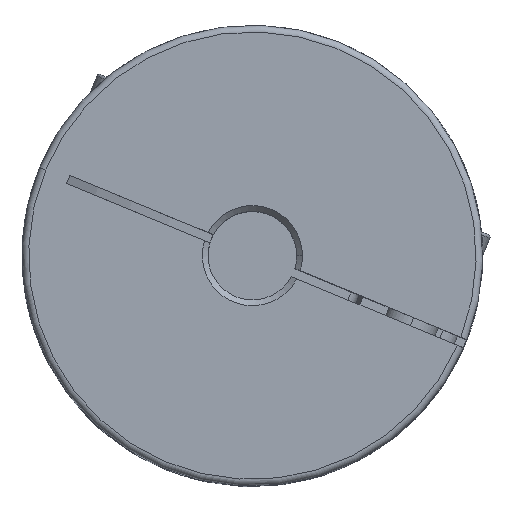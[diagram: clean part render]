
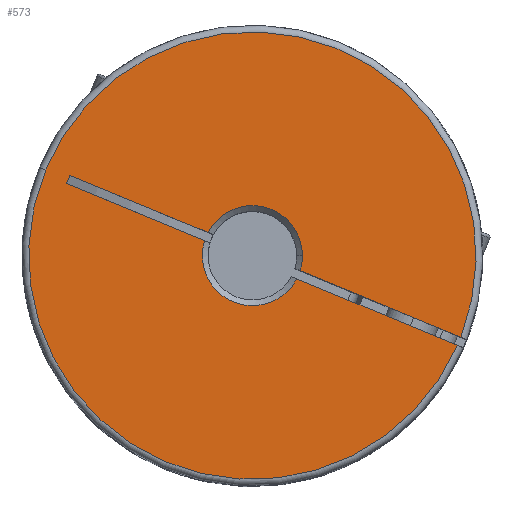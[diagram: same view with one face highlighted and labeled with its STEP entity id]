
A CAD part, top view. The second image highlights one B-rep face of the part: STEP entity #573.
In plain terms, the highlighted planar face has unit normal (0, 0, 1).
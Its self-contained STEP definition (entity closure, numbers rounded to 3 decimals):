
#35 = AXIS2_PLACEMENT_3D ( 'NONE', #11961, #11962, #11963 ) ;
#573 = ADVANCED_FACE ( 'NONE', ( #9574 ), #11960, .F. ) ;
#1114 = EDGE_CURVE ( 'NONE', #13556, #13557, #8898, .T. ) ;
#1115 = EDGE_CURVE ( 'NONE', #13556, #13254, #5454, .T. ) ;
#1116 = EDGE_CURVE ( 'NONE', #13558, #13557, #5457, .T. ) ;
#1117 = EDGE_CURVE ( 'NONE', #13558, #13559, #5460, .T. ) ;
#1118 = EDGE_CURVE ( 'NONE', #13559, #9837, #5463, .T. ) ;
#1119 = EDGE_CURVE ( 'NONE', #9838, #13560, #8899, .T. ) ;
#1120 = EDGE_CURVE ( 'NONE', #13560, #13561, #5469, .T. ) ;
#1121 = EDGE_CURVE ( 'NONE', #13561, #13253, #8900, .T. ) ;
#1381 = EDGE_CURVE ( 'NONE', #13253, #13254, #9029, .T. ) ;
#1922 = EDGE_CURVE ( 'NONE', #9837, #9838, #9301, .T. ) ;
#3828 = AXIS2_PLACEMENT_3D ( 'NONE', #4924, #4925, #4926 ) ;
#4924 = CARTESIAN_POINT ( 'NONE',  ( 0., 0., 48.1 ) ) ;
#4925 = DIRECTION ( 'NONE',  ( 0., 0., 1. ) ) ;
#4926 = DIRECTION ( 'NONE',  ( -0.924, 0.383, 0. ) ) ;
#5450 = CARTESIAN_POINT ( 'NONE',  ( 0., 0., 48.1 ) ) ;
#5451 = DIRECTION ( 'NONE',  ( 0., 0., -1. ) ) ;
#5452 = DIRECTION ( 'NONE',  ( 0., 1., 0. ) ) ;
#5453 = CARTESIAN_POINT ( 'NONE',  ( 0., 0., 48.1 ) ) ;
#5454 = LINE ( 'NONE', #5455, #10511 ) ;
#5455 = CARTESIAN_POINT ( 'NONE',  ( -0.383, -0.924, 48.1 ) ) ;
#5456 = DIRECTION ( 'NONE',  ( 0.924, -0.383, 0. ) ) ;
#5457 = LINE ( 'NONE', #5458, #10513 ) ;
#5458 = CARTESIAN_POINT ( 'NONE',  ( -0.383, -0.924, 48.1 ) ) ;
#5459 = DIRECTION ( 'NONE',  ( 0.924, -0.383, 0. ) ) ;
#5460 = LINE ( 'NONE', #5461, #10514 ) ;
#5461 = CARTESIAN_POINT ( 'NONE',  ( -41.957, 16.297, 48.1 ) ) ;
#5462 = DIRECTION ( 'NONE',  ( 0.383, 0.924, 0. ) ) ;
#5463 = LINE ( 'NONE', #5464, #10515 ) ;
#5464 = CARTESIAN_POINT ( 'NONE',  ( 0.383, 0.924, 48.1 ) ) ;
#5465 = DIRECTION ( 'NONE',  ( 0.924, -0.383, 0. ) ) ;
#5466 = DIRECTION ( 'NONE',  ( 0., 0., -1. ) ) ;
#5467 = DIRECTION ( 'NONE',  ( 0., 1., 0. ) ) ;
#5468 = CARTESIAN_POINT ( 'NONE',  ( 0., 0., 48.1 ) ) ;
#5469 = LINE ( 'NONE', #5470, #10517 ) ;
#5470 = CARTESIAN_POINT ( 'NONE',  ( 0.383, 0.924, 48.1 ) ) ;
#5471 = DIRECTION ( 'NONE',  ( 0.924, -0.383, 0. ) ) ;
#5472 = DIRECTION ( 'NONE',  ( 0., 0., 1. ) ) ;
#5473 = DIRECTION ( 'NONE',  ( -0.924, 0.383, 0. ) ) ;
#6105 = CARTESIAN_POINT ( 'NONE',  ( -46.656, 19.326, 48.1 ) ) ;
#6106 = CARTESIAN_POINT ( 'NONE',  ( 46.264, -20.246, 48.1 ) ) ;
#6408 = CARTESIAN_POINT ( 'NONE',  ( 10.016, -5.231, 48.1 ) ) ;
#6409 = CARTESIAN_POINT ( 'NONE',  ( -10.782, 3.383, 48.1 ) ) ;
#6410 = CARTESIAN_POINT ( 'NONE',  ( -41.957, 16.297, 48.1 ) ) ;
#6411 = CARTESIAN_POINT ( 'NONE',  ( -41.192, 18.145, 48.1 ) ) ;
#6412 = CARTESIAN_POINT ( 'NONE',  ( 10.782, -3.383, 48.1 ) ) ;
#6413 = CARTESIAN_POINT ( 'NONE',  ( 47.029, -18.398, 48.1 ) ) ;
#8006 = AXIS2_PLACEMENT_3D ( 'NONE', #8228, #8229, #8230 ) ;
#8228 = CARTESIAN_POINT ( 'NONE',  ( 0., 0., 48.1 ) ) ;
#8229 = DIRECTION ( 'NONE',  ( 0., 0., -1. ) ) ;
#8230 = DIRECTION ( 'NONE',  ( 0., 1., 0. ) ) ;
#8656 = CARTESIAN_POINT ( 'NONE',  ( -10.016, 5.231, 48.1 ) ) ;
#8657 = CARTESIAN_POINT ( 'NONE',  ( 11.3, 0., 48.1 ) ) ;
#8898 = CIRCLE ( 'NONE', #10510, 11.3 ) ;
#8899 = CIRCLE ( 'NONE', #10512, 11.3 ) ;
#8900 = CIRCLE ( 'NONE', #10508, 50.5 ) ;
#9029 = CIRCLE ( 'NONE', #3828, 50.5 ) ;
#9301 = CIRCLE ( 'NONE', #8006, 11.3 ) ;
#9574 = FACE_OUTER_BOUND ( 'NONE', #11647, .T. ) ;
#9837 = VERTEX_POINT ( 'NONE', #8656 ) ;
#9838 = VERTEX_POINT ( 'NONE', #8657 ) ;
#10508 = AXIS2_PLACEMENT_3D ( 'NONE', #5468, #5472, #5473 ) ;
#10510 = AXIS2_PLACEMENT_3D ( 'NONE', #5450, #5451, #5452 ) ;
#10511 = VECTOR ( 'NONE', #5456, 1000. ) ;
#10512 = AXIS2_PLACEMENT_3D ( 'NONE', #5453, #5466, #5467 ) ;
#10513 = VECTOR ( 'NONE', #5459, 1000. ) ;
#10514 = VECTOR ( 'NONE', #5462, 1000. ) ;
#10515 = VECTOR ( 'NONE', #5465, 1000. ) ;
#10517 = VECTOR ( 'NONE', #5471, 1000. ) ;
#11647 = EDGE_LOOP ( 'NONE', ( #14472, #14474, #14473, #14475, #14476, #14477, #14478, #14480, #14479, #14481 ) ) ;
#11960 = PLANE ( 'NONE',  #35 ) ;
#11961 = CARTESIAN_POINT ( 'NONE',  ( 0., 0., 48.1 ) ) ;
#11962 = DIRECTION ( 'NONE',  ( 0., 0., -1. ) ) ;
#11963 = DIRECTION ( 'NONE',  ( -0.924, 0.383, 0. ) ) ;
#13253 = VERTEX_POINT ( 'NONE', #6105 ) ;
#13254 = VERTEX_POINT ( 'NONE', #6106 ) ;
#13556 = VERTEX_POINT ( 'NONE', #6408 ) ;
#13557 = VERTEX_POINT ( 'NONE', #6409 ) ;
#13558 = VERTEX_POINT ( 'NONE', #6410 ) ;
#13559 = VERTEX_POINT ( 'NONE', #6411 ) ;
#13560 = VERTEX_POINT ( 'NONE', #6412 ) ;
#13561 = VERTEX_POINT ( 'NONE', #6413 ) ;
#14472 = ORIENTED_EDGE ( 'NONE', *, *, #1115, .F. ) ;
#14473 = ORIENTED_EDGE ( 'NONE', *, *, #1116, .F. ) ;
#14474 = ORIENTED_EDGE ( 'NONE', *, *, #1114, .T. ) ;
#14475 = ORIENTED_EDGE ( 'NONE', *, *, #1117, .T. ) ;
#14476 = ORIENTED_EDGE ( 'NONE', *, *, #1118, .T. ) ;
#14477 = ORIENTED_EDGE ( 'NONE', *, *, #1922, .T. ) ;
#14478 = ORIENTED_EDGE ( 'NONE', *, *, #1119, .T. ) ;
#14479 = ORIENTED_EDGE ( 'NONE', *, *, #1121, .T. ) ;
#14480 = ORIENTED_EDGE ( 'NONE', *, *, #1120, .T. ) ;
#14481 = ORIENTED_EDGE ( 'NONE', *, *, #1381, .T. ) ;
